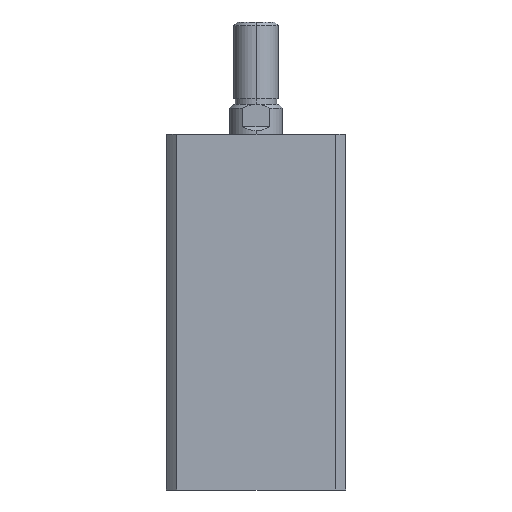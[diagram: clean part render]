
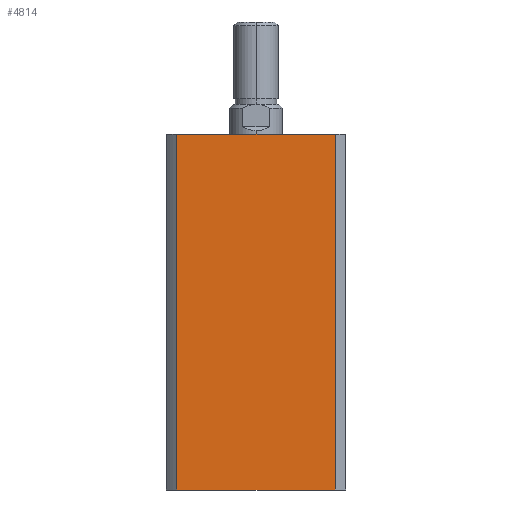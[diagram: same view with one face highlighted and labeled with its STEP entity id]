
A CAD part, left-side view. The second image highlights one B-rep face of the part: STEP entity #4814.
In plain terms, the highlighted planar face has unit normal (-1, 0, 0).
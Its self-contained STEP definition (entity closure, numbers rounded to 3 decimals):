
#11 = CARTESIAN_POINT ( 'NONE',  ( -24., 21.166, 0. ) ) ;
#169 = LINE ( 'NONE', #892, #175 ) ;
#173 = LINE ( 'NONE', #891, #177 ) ;
#175 = VECTOR ( 'NONE', #888, 1000. ) ;
#176 = LINE ( 'NONE', #897, #179 ) ;
#177 = VECTOR ( 'NONE', #896, 1000. ) ;
#179 = VECTOR ( 'NONE', #898, 1000. ) ;
#212 = LINE ( 'NONE', #1042, #214 ) ;
#214 = VECTOR ( 'NONE', #1043, 1000. ) ;
#888 = DIRECTION ( 'NONE',  ( 0., 0., -1. ) ) ;
#891 = CARTESIAN_POINT ( 'NONE',  ( -24., -21.166, 95. ) ) ;
#892 = CARTESIAN_POINT ( 'NONE',  ( -24., 21.166, 95. ) ) ;
#896 = DIRECTION ( 'NONE',  ( 0., 0., -1. ) ) ;
#897 = CARTESIAN_POINT ( 'NONE',  ( -24., 0., 0. ) ) ;
#898 = DIRECTION ( 'NONE',  ( 0., -1., 0. ) ) ;
#1042 = CARTESIAN_POINT ( 'NONE',  ( -24., 0., 95. ) ) ;
#1043 = DIRECTION ( 'NONE',  ( 0., -1., 0. ) ) ;
#1723 = VERTEX_POINT ( 'NONE', #3498 ) ;
#1729 = VERTEX_POINT ( 'NONE', #3495 ) ;
#1808 = VERTEX_POINT ( 'NONE', #2332 ) ;
#1832 = VERTEX_POINT ( 'NONE', #11 ) ;
#1966 = EDGE_LOOP ( 'NONE', ( #2436, #2437, #2438, #2439 ) ) ;
#2332 = CARTESIAN_POINT ( 'NONE',  ( -24., -21.166, 0. ) ) ;
#2436 = ORIENTED_EDGE ( 'NONE', *, *, #3041, .T. ) ;
#2437 = ORIENTED_EDGE ( 'NONE', *, *, #3040, .F. ) ;
#2438 = ORIENTED_EDGE ( 'NONE', *, *, #3071, .F. ) ;
#2439 = ORIENTED_EDGE ( 'NONE', *, *, #3039, .T. ) ;
#3039 = EDGE_CURVE ( 'NONE', #1729, #1832, #169, .T. ) ;
#3040 = EDGE_CURVE ( 'NONE', #1723, #1808, #173, .T. ) ;
#3041 = EDGE_CURVE ( 'NONE', #1832, #1808, #176, .T. ) ;
#3071 = EDGE_CURVE ( 'NONE', #1729, #1723, #212, .T. ) ;
#3495 = CARTESIAN_POINT ( 'NONE',  ( -24., 21.166, 95. ) ) ;
#3498 = CARTESIAN_POINT ( 'NONE',  ( -24., -21.166, 95. ) ) ;
#4507 = CARTESIAN_POINT ( 'NONE',  ( -24., 0., 95. ) ) ;
#4512 = PLANE ( 'NONE',  #4866 ) ;
#4515 = DIRECTION ( 'NONE',  ( 1., 0., 0. ) ) ;
#4516 = DIRECTION ( 'NONE',  ( 0., 0., -1. ) ) ;
#4814 = ADVANCED_FACE ( 'NONE', ( #5001 ), #4512, .F. ) ;
#4866 = AXIS2_PLACEMENT_3D ( 'NONE', #4507, #4515, #4516 ) ;
#5001 = FACE_OUTER_BOUND ( 'NONE', #1966, .T. ) ;
